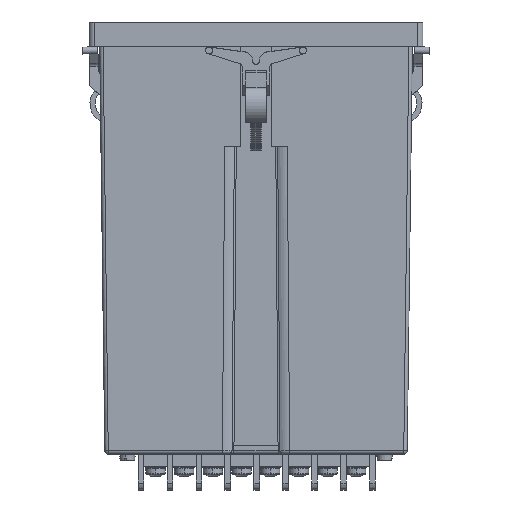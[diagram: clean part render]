
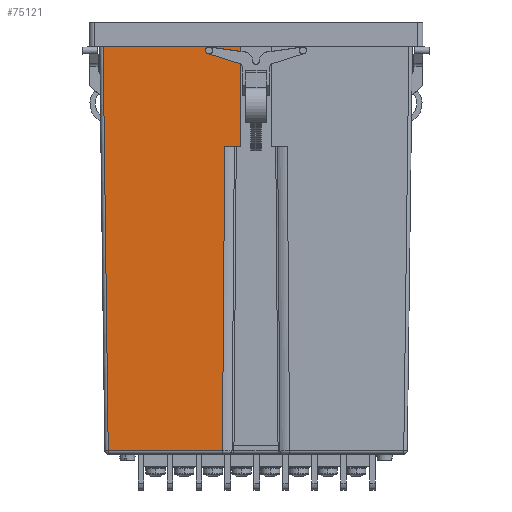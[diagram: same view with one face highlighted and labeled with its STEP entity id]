
A CAD part, front view. The second image highlights one B-rep face of the part: STEP entity #75121.
In plain terms, the highlighted planar face has unit normal (0, -1, -0.013).
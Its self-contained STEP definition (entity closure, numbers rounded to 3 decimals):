
#4880 = CARTESIAN_POINT ( 'NONE',  ( -42.513, -43.512, -121.413 ) ) ;
#5969 = ORIENTED_EDGE ( 'NONE', *, *, #82512, .F. ) ;
#6967 = CARTESIAN_POINT ( 'NONE',  ( -4.46, -44.62, -33.898 ) ) ;
#15011 = LINE ( 'NONE', #70626, #25126 ) ;
#15806 = CARTESIAN_POINT ( 'NONE',  ( 0., -44.62, -33.898 ) ) ;
#18675 = PLANE ( 'NONE',  #47461 ) ;
#21488 = VECTOR ( 'NONE', #38208, 1000. ) ;
#25126 = VECTOR ( 'NONE', #85708, 1000. ) ;
#25622 = VERTEX_POINT ( 'NONE', #4880 ) ;
#30476 = LINE ( 'NONE', #15806, #55935 ) ;
#32171 = VECTOR ( 'NONE', #64957, 1000. ) ;
#32762 = CARTESIAN_POINT ( 'NONE',  ( -9.673, -43.512, -121.413 ) ) ;
#32799 = CARTESIAN_POINT ( 'NONE',  ( -9., -44.62, -33.898 ) ) ;
#34069 = EDGE_CURVE ( 'NONE', #60604, #64152, #84179, .T. ) ;
#38208 = DIRECTION ( 'NONE',  ( 0.008, -0.013, 1. ) ) ;
#40317 = CARTESIAN_POINT ( 'NONE',  ( -44., -45., -3.9 ) ) ;
#42372 = LINE ( 'NONE', #49455, #32171 ) ;
#43059 = EDGE_CURVE ( 'NONE', #25622, #61527, #82649, .T. ) ;
#45328 = ORIENTED_EDGE ( 'NONE', *, *, #43059, .T. ) ;
#45453 = DIRECTION ( 'NONE',  ( 1., 0., 0. ) ) ;
#47447 = DIRECTION ( 'NONE',  ( 0., 0.013, -1. ) ) ;
#47461 = AXIS2_PLACEMENT_3D ( 'NONE', #75655, #83239, #47447 ) ;
#49455 = CARTESIAN_POINT ( 'NONE',  ( 45., -45., -3.9 ) ) ;
#53812 = VERTEX_POINT ( 'NONE', #40317 ) ;
#55935 = VECTOR ( 'NONE', #59156, 1000. ) ;
#56278 = VECTOR ( 'NONE', #45453, 1000. ) ;
#58636 = VERTEX_POINT ( 'NONE', #32799 ) ;
#59156 = DIRECTION ( 'NONE',  ( -1., 0., 0. ) ) ;
#59634 = EDGE_CURVE ( 'NONE', #60604, #53812, #42372, .T. ) ;
#60604 = VERTEX_POINT ( 'NONE', #92807 ) ;
#61527 = VERTEX_POINT ( 'NONE', #87603 ) ;
#64152 = VERTEX_POINT ( 'NONE', #6967 ) ;
#64957 = DIRECTION ( 'NONE',  ( -1., 0., 0. ) ) ;
#65243 = ORIENTED_EDGE ( 'NONE', *, *, #59634, .T. ) ;
#66291 = EDGE_CURVE ( 'NONE', #53812, #25622, #15011, .T. ) ;
#69098 = ORIENTED_EDGE ( 'NONE', *, *, #66291, .T. ) ;
#70485 = ORIENTED_EDGE ( 'NONE', *, *, #34069, .F. ) ;
#70626 = CARTESIAN_POINT ( 'NONE',  ( -44.035, -45.035, -1.127 ) ) ;
#71865 = DIRECTION ( 'NONE',  ( 0.001, 0.013, -1. ) ) ;
#73447 = LINE ( 'NONE', #73906, #21488 ) ;
#73906 = CARTESIAN_POINT ( 'NONE',  ( -9., -44.621, -33.875 ) ) ;
#74809 = EDGE_CURVE ( 'NONE', #61527, #58636, #73447, .T. ) ;
#75121 = ADVANCED_FACE ( 'NONE', ( #90326 ), #18675, .T. ) ;
#75655 = CARTESIAN_POINT ( 'NONE',  ( 0., -45.042, -0.57 ) ) ;
#80277 = VECTOR ( 'NONE', #71865, 1000. ) ;
#80298 = EDGE_LOOP ( 'NONE', ( #69098, #45328, #80794, #5969, #70485, #65243 ) ) ;
#80794 = ORIENTED_EDGE ( 'NONE', *, *, #74809, .T. ) ;
#82512 = EDGE_CURVE ( 'NONE', #64152, #58636, #30476, .T. ) ;
#82649 = LINE ( 'NONE', #32762, #56278 ) ;
#83239 = DIRECTION ( 'NONE',  ( 0., -1., -0.013 ) ) ;
#84179 = LINE ( 'NONE', #92220, #80277 ) ;
#85708 = DIRECTION ( 'NONE',  ( 0.013, 0.013, -1. ) ) ;
#87603 = CARTESIAN_POINT ( 'NONE',  ( -9.665, -43.512, -121.413 ) ) ;
#90326 = FACE_OUTER_BOUND ( 'NONE', #80298, .T. ) ;
#92220 = CARTESIAN_POINT ( 'NONE',  ( -4.46, -44.62, -33.898 ) ) ;
#92807 = CARTESIAN_POINT ( 'NONE',  ( -4.5, -45., -3.9 ) ) ;
